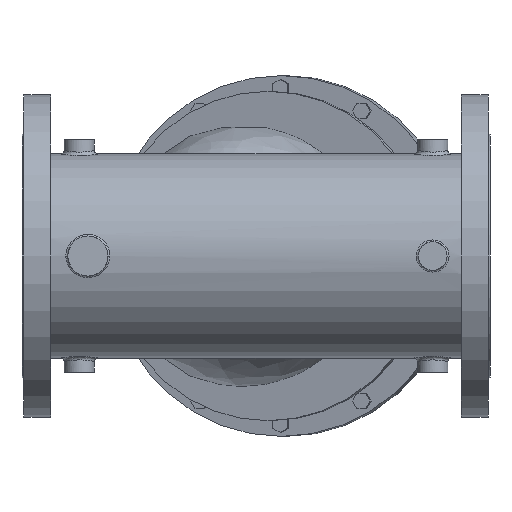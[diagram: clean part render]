
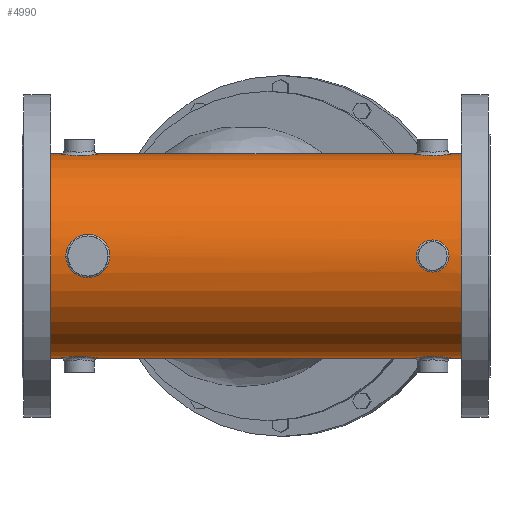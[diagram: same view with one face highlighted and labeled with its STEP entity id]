
A CAD part, front view. The second image highlights one B-rep face of the part: STEP entity #4990.
In plain terms, the highlighted cylindrical face has radius 90.487 mm (diameter 180.975 mm), a full revolution.
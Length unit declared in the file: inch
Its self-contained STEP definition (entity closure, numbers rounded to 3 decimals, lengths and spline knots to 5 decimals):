
#355=FACE_OUTER_BOUND('',#619,.T.);
#619=EDGE_LOOP('',(#3319,#3320,#3321,#3322,#3323,#3324,#3325,#3326,#3327,
#3328,#3329,#3330,#3331,#3332,#3333));
#963=B_SPLINE_CURVE_WITH_KNOTS('',3,(#6949,#6950,#6951,#6952,#6953,#6954,
#6955,#6956,#6957,#6958,#6959,#6960),.UNSPECIFIED.,.F.,.F.,(4,1,1,1,1,1,
1,1,1,4),(-8.05958,-7.93165,-7.67579,-6.65235,
-6.14063,-5.1172,-4.60548,-3.58204,
-3.07032,-2.68653),.UNSPECIFIED.);
#964=B_SPLINE_CURVE_WITH_KNOTS('',3,(#6964,#6965,#6966,#6967,#6968,#6969,
#6970,#6971,#6972,#6973,#6974),.UNSPECIFIED.,.F.,.F.,(4,1,1,1,1,1,1,1,4),
(-5.74885,-5.47511,-4.74509,-4.38009,
-3.65007,-3.28506,-2.55505,-2.19004,
-1.91628),.UNSPECIFIED.);
#965=B_SPLINE_CURVE_WITH_KNOTS('',3,(#6981,#6982,#6983,#6984,#6985,#6986,
#6987),.UNSPECIFIED.,.F.,.F.,(4,1,1,1,4),(-7.66515,-7.11764,
-6.57013,-6.02262,-5.74885),.UNSPECIFIED.);
#966=B_SPLINE_CURVE_WITH_KNOTS('',3,(#6988,#6989,#6990,#6991,#6992,#6993,
#6994),.UNSPECIFIED.,.F.,.F.,(4,1,1,1,4),(-1.91628,-1.46003,
-1.09502,-0.54751,0.),.UNSPECIFIED.);
#1006=CIRCLE('',#5276,3.5625);
#1007=CIRCLE('',#5277,3.5625);
#1008=CIRCLE('',#5278,3.5625);
#1009=CIRCLE('',#5279,3.5625);
#1115=LINE('',#6943,#1643);
#1116=LINE('',#6945,#1644);
#1117=LINE('',#6962,#1645);
#1118=LINE('',#6976,#1646);
#1643=VECTOR('',#5657,3.5625);
#1644=VECTOR('',#5658,3.5625);
#1645=VECTOR('',#5663,3.5625);
#1646=VECTOR('',#5664,3.5625);
#2171=VERTEX_POINT('',#6941);
#2172=VERTEX_POINT('',#6942);
#2173=VERTEX_POINT('',#6944);
#2174=VERTEX_POINT('',#6946);
#2175=VERTEX_POINT('',#6961);
#2176=VERTEX_POINT('',#6963);
#2177=VERTEX_POINT('',#6975);
#2178=VERTEX_POINT('',#6977);
#2179=VERTEX_POINT('',#6980);
#2636=EDGE_CURVE('',#2171,#2172,#1115,.T.);
#2637=EDGE_CURVE('',#2171,#2173,#1116,.T.);
#2638=EDGE_CURVE('',#2173,#2174,#1006,.T.);
#2639=EDGE_CURVE('',#2174,#2173,#1007,.T.);
#2640=EDGE_CURVE('',#2172,#2171,#963,.T.);
#2641=EDGE_CURVE('',#2175,#2172,#1117,.T.);
#2642=EDGE_CURVE('',#2176,#2175,#964,.T.);
#2643=EDGE_CURVE('',#2177,#2176,#1118,.T.);
#2644=EDGE_CURVE('',#2178,#2177,#1008,.T.);
#2645=EDGE_CURVE('',#2177,#2178,#1009,.T.);
#2646=EDGE_CURVE('',#2179,#2176,#965,.T.);
#2647=EDGE_CURVE('',#2175,#2179,#966,.T.);
#3319=ORIENTED_EDGE('',*,*,#2636,.F.);
#3320=ORIENTED_EDGE('',*,*,#2637,.T.);
#3321=ORIENTED_EDGE('',*,*,#2638,.T.);
#3322=ORIENTED_EDGE('',*,*,#2639,.T.);
#3323=ORIENTED_EDGE('',*,*,#2637,.F.);
#3324=ORIENTED_EDGE('',*,*,#2640,.F.);
#3325=ORIENTED_EDGE('',*,*,#2641,.F.);
#3326=ORIENTED_EDGE('',*,*,#2642,.F.);
#3327=ORIENTED_EDGE('',*,*,#2643,.F.);
#3328=ORIENTED_EDGE('',*,*,#2644,.F.);
#3329=ORIENTED_EDGE('',*,*,#2645,.F.);
#3330=ORIENTED_EDGE('',*,*,#2643,.T.);
#3331=ORIENTED_EDGE('',*,*,#2646,.F.);
#3332=ORIENTED_EDGE('',*,*,#2647,.F.);
#3333=ORIENTED_EDGE('',*,*,#2641,.T.);
#4685=CYLINDRICAL_SURFACE('',#5275,3.5625);
#4990=ADVANCED_FACE('',(#355),#4685,.T.);
#5275=AXIS2_PLACEMENT_3D('',#6940,#5655,#5656);
#5276=AXIS2_PLACEMENT_3D('',#6947,#5659,#5660);
#5277=AXIS2_PLACEMENT_3D('',#6948,#5661,#5662);
#5278=AXIS2_PLACEMENT_3D('',#6978,#5665,#5666);
#5279=AXIS2_PLACEMENT_3D('',#6979,#5667,#5668);
#5655=DIRECTION('center_axis',(1.,0.,0.));
#5656=DIRECTION('ref_axis',(0.,1.,0.));
#5657=DIRECTION('',(1.,0.,0.));
#5658=DIRECTION('',(-1.,0.,0.));
#5659=DIRECTION('center_axis',(1.,0.,0.));
#5660=DIRECTION('ref_axis',(0.,0.,-1.));
#5661=DIRECTION('center_axis',(1.,0.,0.));
#5662=DIRECTION('ref_axis',(0.,0.,-1.));
#5663=DIRECTION('',(-1.,0.,0.));
#5664=DIRECTION('',(-1.,0.,0.));
#5665=DIRECTION('center_axis',(1.,0.,0.));
#5666=DIRECTION('ref_axis',(0.,0.,-1.));
#5667=DIRECTION('center_axis',(1.,0.,0.));
#5668=DIRECTION('ref_axis',(0.,0.,-1.));
#6940=CARTESIAN_POINT('Origin',(0.,0.,0.));
#6941=CARTESIAN_POINT('',(-6.64,-3.5625,0.));
#6942=CARTESIAN_POINT('',(-5.1,-3.5625,0.));
#6943=CARTESIAN_POINT('',(0.,-3.5625,0.));
#6944=CARTESIAN_POINT('',(-7.17,-3.5625,0.));
#6945=CARTESIAN_POINT('',(0.,-3.5625,0.));
#6946=CARTESIAN_POINT('',(-7.17,3.5625,0.));
#6947=CARTESIAN_POINT('Origin',(-7.17,0.,0.));
#6948=CARTESIAN_POINT('Origin',(-7.17,0.,0.));
#6949=CARTESIAN_POINT('Ctrl Pts',(-5.09992,-3.56255,-0.00002));
#6950=CARTESIAN_POINT('Ctrl Pts',(-5.09994,-3.56254,0.01888));
#6951=CARTESIAN_POINT('Ctrl Pts',(-5.10216,-3.56204,0.07558));
#6952=CARTESIAN_POINT('Ctrl Pts',(-5.13348,-3.55564,0.28175));
#6953=CARTESIAN_POINT('Ctrl Pts',(-5.27431,-3.52725,0.51886));
#6954=CARTESIAN_POINT('Ctrl Pts',(-5.59425,-3.48712,0.73357));
#6955=CARTESIAN_POINT('Ctrl Pts',(-5.9123,-3.47567,0.78104));
#6956=CARTESIAN_POINT('Ctrl Pts',(-6.28448,-3.50051,0.66776));
#6957=CARTESIAN_POINT('Ctrl Pts',(-6.51815,-3.5378,0.45494));
#6958=CARTESIAN_POINT('Ctrl Pts',(-6.6249,-3.55944,0.18879));
#6959=CARTESIAN_POINT('Ctrl Pts',(-6.63988,-3.56245,0.05659));
#6960=CARTESIAN_POINT('Ctrl Pts',(-6.63988,-3.56245,-0.00006));
#6961=CARTESIAN_POINT('',(5.6,-3.5625,0.));
#6962=CARTESIAN_POINT('',(0.,-3.5625,0.));
#6963=CARTESIAN_POINT('',(6.74,-3.5625,0.));
#6964=CARTESIAN_POINT('Ctrl Pts',(6.73999,-3.56248,0.00006));
#6965=CARTESIAN_POINT('Ctrl Pts',(6.74002,-3.56248,0.04197));
#6966=CARTESIAN_POINT('Ctrl Pts',(6.72268,-3.55989,0.19563));
#6967=CARTESIAN_POINT('Ctrl Pts',(6.61121,-3.54322,0.38426));
#6968=CARTESIAN_POINT('Ctrl Pts',(6.37379,-3.5213,0.54324));
#6969=CARTESIAN_POINT('Ctrl Pts',(6.13878,-3.51529,0.57794));
#6970=CARTESIAN_POINT('Ctrl Pts',(5.86343,-3.52862,0.49446));
#6971=CARTESIAN_POINT('Ctrl Pts',(5.69004,-3.54895,0.33671));
#6972=CARTESIAN_POINT('Ctrl Pts',(5.61092,-3.56095,0.13953));
#6973=CARTESIAN_POINT('Ctrl Pts',(5.60012,-3.56246,0.04183));
#6974=CARTESIAN_POINT('Ctrl Pts',(5.6002,-3.56242,-0.00003));
#6975=CARTESIAN_POINT('',(7.17,-3.5625,0.));
#6976=CARTESIAN_POINT('',(0.,-3.5625,0.));
#6977=CARTESIAN_POINT('',(7.17,3.5625,0.));
#6978=CARTESIAN_POINT('Origin',(7.17,0.,0.));
#6979=CARTESIAN_POINT('Origin',(7.17,0.,0.));
#6980=CARTESIAN_POINT('',(6.17,-3.51837,-0.55902));
#6981=CARTESIAN_POINT('Ctrl Pts',(6.17,-3.51837,-0.55902));
#6982=CARTESIAN_POINT('Ctrl Pts',(6.2554,-3.51837,-0.55902));
#6983=CARTESIAN_POINT('Ctrl Pts',(6.42605,-3.52476,-0.52071));
#6984=CARTESIAN_POINT('Ctrl Pts',(6.63074,-3.54612,-0.36046));
#6985=CARTESIAN_POINT('Ctrl Pts',(6.7256,-3.56032,-0.16764));
#6986=CARTESIAN_POINT('Ctrl Pts',(6.73997,-3.56247,-0.04186));
#6987=CARTESIAN_POINT('Ctrl Pts',(6.73999,-3.56248,0.00006));
#6988=CARTESIAN_POINT('Ctrl Pts',(5.6002,-3.56242,-0.00003));
#6989=CARTESIAN_POINT('Ctrl Pts',(5.60033,-3.56234,-0.0698));
#6990=CARTESIAN_POINT('Ctrl Pts',(5.62413,-3.55872,-0.19535));
#6991=CARTESIAN_POINT('Ctrl Pts',(5.73227,-3.54365,-0.37828));
#6992=CARTESIAN_POINT('Ctrl Pts',(5.91379,-3.52483,-0.5207));
#6993=CARTESIAN_POINT('Ctrl Pts',(6.0846,-3.51837,-0.55902));
#6994=CARTESIAN_POINT('Ctrl Pts',(6.17,-3.51837,-0.55902));
